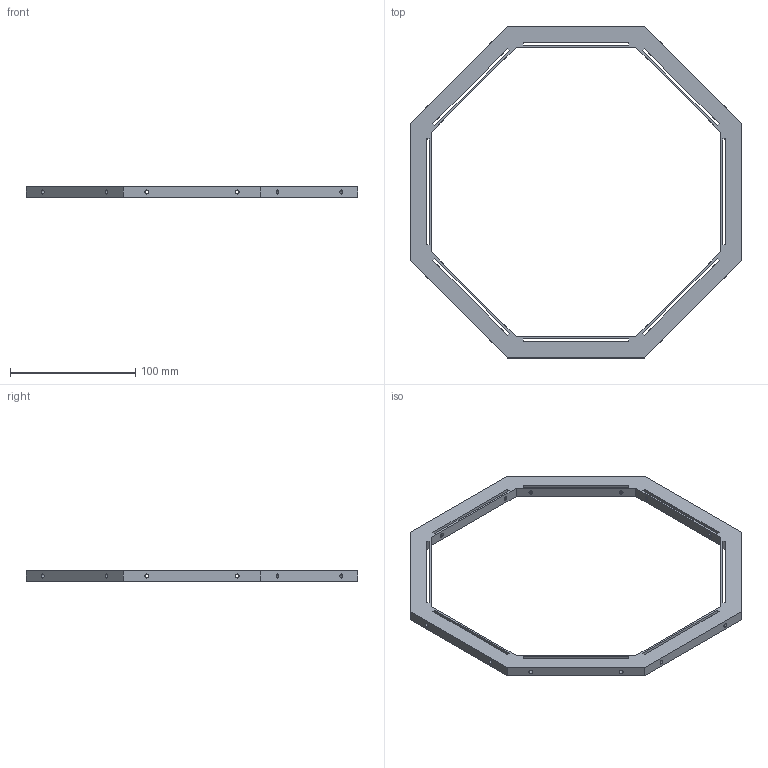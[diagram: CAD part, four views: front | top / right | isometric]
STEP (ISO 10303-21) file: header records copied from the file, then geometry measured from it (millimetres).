
FILE_DESCRIPTION(('Open CASCADE Model'),'2;1');
FILE_NAME('Open CASCADE Shape Model','2026-10-06T14:52:15',('Author'),( 'Open CASCADE'),'Open CASCADE STEP processor 7.9','Open CASCADE 7.9' ,'Unknown');
FILE_SCHEMA(('AUTOMOTIVE_DESIGN { 1 0 10303 214 1 1 1 1 }'));
Length unit declared in the file: millimetre
Products named in the file (2): ring8_32_r2; ring8_32_r2_body
Assembly tree (1 placements, depth 2):
  ring8_32_r2
    ring8_32_r2_body
Bounding box: 265 x 265 x 8 mm (x, y, z)
Volume: 97948.6 mm3; surface area: 51088.3 mm2
Topology: 1 solids, 1 shells, 82 faces, 240 edges, 160 vertices
Faces by surface type: plane 50, cylinder 32
Full cylindrical faces by diameter (mm): 3.2 x32
Entity records: 5985 total; most frequent: CARTESIAN_POINT 1316, DIRECTION 760, ORIENTED_EDGE 480, PCURVE 480, DEFINITIONAL_REPRESENTATION 480, LINE 432, VECTOR 432, EDGE_CURVE 240
